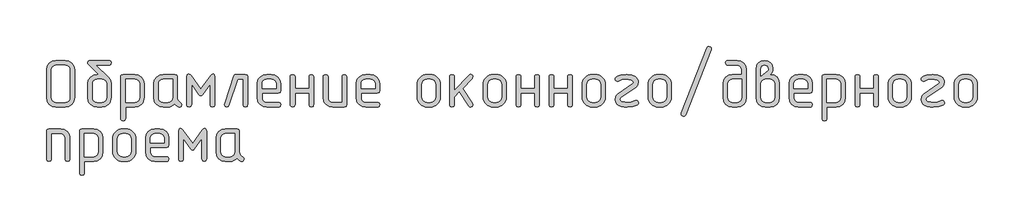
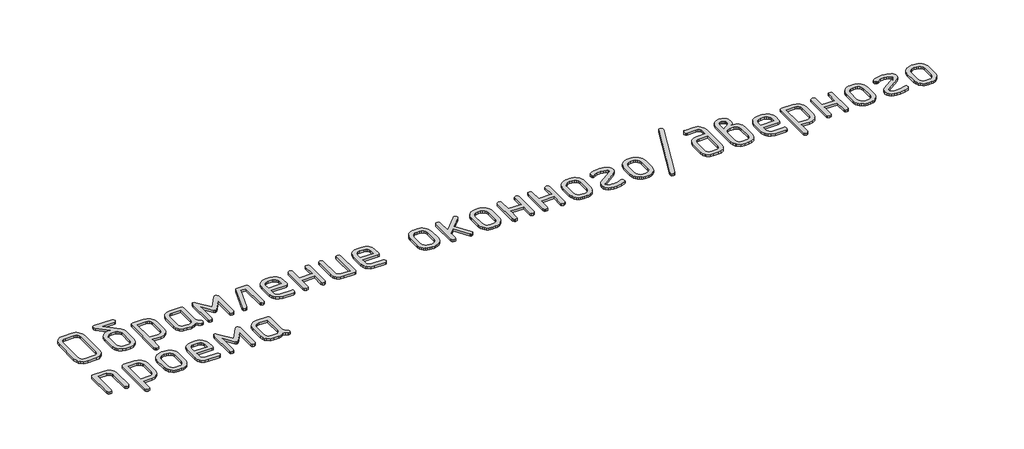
# One storey, part 7 of 37: 1 proxy.
"""IFC4 building model written with IfcOpenShell, lengths in millimetres."""

from ifc_helpers import new_model, si_unit, origin, origin_with_axes, place, context, project, spatial, polyline, outline, extrude, element, save

model = new_model("IFC4")

# Units and contexts
model_context = context("Model", 3, world=origin())
ifc_project = project(units=[si_unit("LENGTHUNIT", "METRE", prefix="MILLI")], contexts=[model_context])

# Site, building, storey
site = spatial("IfcSite", under=ifc_project)
building = spatial("IfcBuilding", under=site)
storey = spatial("IfcBuildingStorey", under=building, Name="Этаж 01", Elevation=0.0)

# Proxy
placement = place(None, origin())
element("IfcBuildingElementProxy", 1, Name="400 мм ГОСТ 2.304", ObjectType="400 мм ГОСТ 2.304", at=placement, inside=storey, context=model_context, shape_type="SweptSolid", body=[
    extrude(outline(polyline([(35529.9614469, -37429.4392879), (35524.0713089, -37460.9629021), (35516.7086364, -37474.7339437), (35506.4008948, -37487.1778083), (35480.7926982, -37504.3931902), (35449.8757935, -37510.1316508), (35369.1834306, -37510.1316508), (35338.1148485, -37504.3931902), (35312.0516197, -37487.1778083), (35301.7438782, -37474.7339437), (35294.3812057, -37460.9629021), (35288.4910677, -37429.4392879), (35288.4910677, -37187.9689087), (35294.3812057, -37156.9003266), (35312.0516197, -37130.8370978), (35338.1148485, -37113.1666838), (35369.1834306, -37107.2765458), (35449.8757935, -37107.2765458), (35480.7926982, -37113.1666838), (35494.260385, -37120.5293563), (35506.4008948, -37130.8370978), (35524.0713089, -37156.9003266), (35529.9614469, -37187.9689087), (35529.9614469, -37429.4392879)]), holes=[polyline([(35489.9186202, -37429.4392879), (35489.9186202, -37187.9689087), (35486.9735512, -37172.2829403), (35478.1383442, -37159.4030033), (35465.1825685, -37150.7953123), (35449.8757935, -37147.926082), (35369.1834306, -37147.926082), (35353.4974622, -37150.7953123), (35340.6175252, -37159.4030033), (35332.0098342, -37172.2829403), (35329.1406039, -37187.9689087), (35329.1406039, -37429.4392879), (35332.0098342, -37445.201095), (35340.6175252, -37458.3085481), (35353.4974622, -37467.1437551), (35369.1834306, -37470.0888241), (35449.8757935, -37470.0888241), (35465.1825685, -37467.1437551), (35478.1383442, -37458.3085481), (35486.9735512, -37445.201095), (35489.9186202, -37429.4392879)])]), origin_with_axes(), (0.0, 0.0, 1.0), 20.0),
    extrude(outline(polyline([(35740.9952331, -37228.6184449), (35650.898873, -37142.0612235), (35645.1351328, -37134.4015161), (35643.2138861, -37125.5789489), (35648.5225942, -37112.5852538), (35655.3101567, -37108.6037228), (35665.0554279, -37107.2765458), (35825.8334443, -37107.2765458), (35834.5928126, -37108.7554002), (35840.8495043, -37113.1919633), (35845.8548576, -37127.9046686), (35840.5461495, -37141.7578688), (35834.2136192, -37146.3840287), (35825.8334443, -37147.926082), (35715.1089613, -37147.926082), (35821.687596, -37249.8532772), (35826.4401538, -37256.3248452), (35841.0011817, -37280.593225), (35845.8548576, -37308.7040983), (35845.8548576, -37429.4392879), (35839.9647196, -37460.9629021), (35832.6020471, -37474.7339437), (35822.2943055, -37487.1778083), (35796.5344315, -37504.3931902), (35765.1624947, -37510.1316508), (35725.119668, -37510.1316508), (35694.0510859, -37504.3931902), (35667.9878572, -37487.1778083), (35657.6801156, -37474.7339437), (35650.3174431, -37460.9629021), (35644.4273051, -37429.4392879), (35644.4273051, -37308.7040983), (35650.3174431, -37278.0905483), (35667.9878572, -37252.178997), (35694.0510859, -37234.5085829), (35725.119668, -37228.6184449), (35740.9952331, -37228.6184449)]), holes=[polyline([(35805.8120309, -37429.4392879), (35805.8120309, -37308.7040983), (35802.8669619, -37293.3973233), (35794.0317549, -37280.4415476), (35780.9243018, -37271.6063406), (35765.1624947, -37268.6612716), (35725.119668, -37268.6612716), (35709.4336996, -37271.6063406), (35696.5537626, -37280.4415476), (35687.9460716, -37293.3973233), (35685.0768413, -37308.7040983), (35685.0768413, -37429.4392879), (35687.9460716, -37445.201095), (35696.5537626, -37458.3085481), (35709.4336996, -37467.1437551), (35725.119668, -37470.0888241), (35765.1624947, -37470.0888241), (35780.9243018, -37467.1437551), (35794.0317549, -37458.3085481), (35802.8669619, -37445.201095), (35805.8120309, -37429.4392879)])]), origin_with_axes(), (0.0, 0.0, 1.0), 20.0),
    extrude(outline(polyline([(35969.8258312, -37510.1316508), (35969.8258312, -37610.8454271), (35968.4228155, -37619.6047955), (35964.2137684, -37625.8614871), (35949.8044179, -37630.8668405), (35935.3445082, -37625.5581324), (35930.7183483, -37619.225602), (35929.176295, -37610.8454271), (35929.176295, -37248.6398582), (35930.4655527, -37239.8804899), (35934.3333257, -37233.6237982), (35949.8044179, -37228.6184449), (36049.9114846, -37228.6184449), (36081.2834215, -37234.3569055), (36107.0432955, -37251.5722875), (36124.7137095, -37277.6355162), (36130.6038476, -37308.7040983), (36130.6038476, -37429.4392879), (36124.7137095, -37460.9629021), (36117.351037, -37474.7339437), (36107.0432955, -37487.1778083), (36081.2834215, -37504.3931902), (36049.9114846, -37510.1316508), (35969.8258312, -37510.1316508)]), holes=[polyline([(35969.8258312, -37470.0888241), (36049.9114846, -37470.0888241), (36065.6732918, -37467.1437551), (36078.7807448, -37458.3085481), (36087.6159518, -37445.201095), (36090.5610209, -37429.4392879), (36090.5610209, -37308.7040983), (36087.6159518, -37293.3973233), (36078.7807448, -37280.4415476), (36065.6732918, -37271.6063406), (36049.9114846, -37268.6612716), (35969.8258312, -37268.6612716), (35969.8258312, -37470.0888241)])]), origin_with_axes(), (0.0, 0.0, 1.0), 20.0),
    extrude(outline(polyline([(36394.7247146, -37483.6386695), (36382.7927612, -37494.2813653), (36368.2317333, -37502.7500186), (36351.9011361, -37508.2862428), (36334.6604746, -37510.1316508), (36294.6176479, -37510.1316508), (36263.5490658, -37504.3931902), (36237.485837, -37487.1778083), (36227.1780955, -37474.7339437), (36219.815423, -37460.9629021), (36213.925285, -37429.4392879), (36213.925285, -37308.7040983), (36219.815423, -37278.0905483), (36237.485837, -37252.178997), (36263.5490658, -37234.5085829), (36294.6176479, -37228.6184449), (36395.3314241, -37228.6184449), (36410.3474842, -37233.6237982), (36415.3528375, -37248.6398582), (36415.3528375, -37429.4392879), (36417.2614445, -37442.4709023), (36422.9872653, -37454.4660546), (36431.8224723, -37464.5399602), (36443.0592378, -37471.8078344), (36452.7665897, -37478.9113914), (36456.0023737, -37489.503528), (36450.3903109, -37504.2667924), (36443.9819418, -37509.1204684), (36435.9809603, -37510.7383603), (36427.6892639, -37508.4126406), (36409.1340652, -37497.7699449), (36394.7247146, -37483.6386695)]), holes=[polyline([(36375.3100108, -37429.4392879), (36375.3100108, -37268.6612716), (36294.6176479, -37268.6612716), (36278.9316795, -37271.6063406), (36266.0517425, -37280.4415476), (36257.4440515, -37293.3973233), (36254.5748212, -37308.7040983), (36254.5748212, -37429.4392879), (36257.4440515, -37445.201095), (36266.0517425, -37458.3085481), (36278.9316795, -37467.1437551), (36294.6176479, -37470.0888241), (36334.6604746, -37470.0888241), (36350.4222817, -37467.1437551), (36363.5297347, -37458.3085481), (36372.3649418, -37445.201095), (36375.3100108, -37429.4392879)])]), origin_with_axes(), (0.0, 0.0, 1.0), 20.0),
    extrude(outline(polyline([(36740.1446541, -37490.1102375), (36738.6657998, -37498.4904124), (36734.2292366, -37504.8229428), (36720.1232408, -37510.1316508), (36705.6633311, -37505.1262975), (36701.4922034, -37498.8696058), (36700.1018274, -37490.1102375), (36700.1018274, -37311.029818), (36635.8917392, -37401.2272964), (36627.6253223, -37409.1145198), (36619.4094645, -37411.7435943), (36610.890252, -37409.1145198), (36602.9271899, -37401.2272964), (36539.3238111, -37311.029818), (36539.3238111, -37490.1102375), (36537.7817578, -37498.4904124), (36533.1555979, -37504.8229428), (36519.3023977, -37510.1316508), (36504.2863377, -37505.1262975), (36500.0772906, -37498.8696058), (36498.6742749, -37490.1102375), (36498.6742749, -37248.6398582), (36503.6796282, -37231.2475194), (36509.35489, -37226.6213595), (36516.3699685, -37225.0793062), (36526.7851482, -37228.037015), (36535.7846724, -37236.9101413), (36619.4094645, -37354.6117835), (36703.6409662, -37236.9101413), (36712.7416086, -37228.037015), (36722.4489605, -37225.0793062), (36729.4640391, -37226.6213595), (36735.1393008, -37231.2475194), (36740.1446541, -37248.6398582), (36740.1446541, -37490.1102375)])), origin_with_axes(), (0.0, 0.0, 1.0), 20.0),
    extrude(outline(polyline([(37023.6802251, -37490.1102375), (37022.2772094, -37498.8696058), (37018.0681623, -37505.1262975), (37003.6588117, -37510.1316508), (36989.5022568, -37504.8229428), (36985.103613, -37498.4904124), (36983.6373984, -37490.1102375), (36983.6373984, -37268.6612716), (36937.1230037, -37268.6612716), (36861.6887898, -37496.5818054), (36854.3577167, -37506.5925121), (36843.4875049, -37510.1316508), (36829.0275953, -37504.8229428), (36824.4014353, -37498.6420898), (36822.859382, -37490.716947), (36824.072801, -37483.6386695), (36903.551745, -37242.1682903), (36910.7311407, -37232.0059062), (36922.9664488, -37228.6184449), (37003.6588117, -37228.6184449), (37018.6748718, -37233.6237982), (37023.6802251, -37248.6398582), (37023.6802251, -37490.1102375)])), origin_with_axes(), (0.0, 0.0, 1.0), 20.0),
    extrude(outline(polyline([(37147.6511987, -37389.3964612), (37147.6511987, -37429.4392879), (37150.520429, -37445.201095), (37159.12812, -37458.3085481), (37172.008057, -37467.1437551), (37187.6940254, -37470.0888241), (37288.4078017, -37470.0888241), (37297.16717, -37471.4918398), (37303.4238617, -37475.700887), (37308.429215, -37490.1102375), (37303.1205069, -37503.9634376), (37296.7879766, -37508.5895975), (37288.4078017, -37510.1316508), (37187.6940254, -37510.1316508), (37156.6254433, -37504.3931902), (37130.5622146, -37487.1778083), (37120.254473, -37474.7339437), (37112.8918005, -37460.9629021), (37107.0016625, -37429.4392879), (37107.0016625, -37308.7040983), (37112.8918005, -37277.7871936), (37120.254473, -37264.3195068), (37130.5622146, -37252.178997), (37156.6254433, -37234.5085829), (37187.6940254, -37228.6184449), (37227.7368521, -37228.6184449), (37259.1087889, -37234.3569055), (37284.868663, -37251.5722875), (37302.539077, -37277.6355162), (37308.429215, -37308.7040983), (37308.429215, -37369.3750479), (37303.4238617, -37384.3911079), (37288.4078017, -37389.3964612), (37147.6511987, -37389.3964612)]), holes=[polyline([(37147.6511987, -37349.3536345), (37268.3863883, -37349.3536345), (37268.3863883, -37308.7040983), (37265.4413193, -37293.3973233), (37256.6061123, -37280.4415476), (37243.4986592, -37271.6063406), (37227.7368521, -37268.6612716), (37187.6940254, -37268.6612716), (37172.008057, -37271.6063406), (37159.12812, -37280.4415476), (37150.520429, -37293.3973233), (37147.6511987, -37308.7040983), (37147.6511987, -37349.3536345)])]), origin_with_axes(), (0.0, 0.0, 1.0), 20.0),
    extrude(outline(polyline([(37553.1353783, -37349.3536345), (37553.1353783, -37248.6398582), (37554.6015929, -37240.2596833), (37559.0002367, -37233.927153), (37573.1567916, -37228.6184449), (37587.2627874, -37233.6237982), (37591.6993506, -37239.8804899), (37593.178205, -37248.6398582), (37593.178205, -37490.1102375), (37591.7751893, -37498.8696058), (37587.5661421, -37505.1262975), (37573.1567916, -37510.1316508), (37559.0002367, -37504.8229428), (37554.6015929, -37498.4904124), (37553.1353783, -37490.1102375), (37553.1353783, -37389.3964612), (37432.4001886, -37389.3964612), (37432.4001886, -37490.1102375), (37430.9971729, -37498.8696058), (37426.7881258, -37505.1262975), (37412.3787753, -37510.1316508), (37397.9188656, -37504.8229428), (37393.2927057, -37498.4904124), (37391.7506524, -37490.1102375), (37391.7506524, -37248.6398582), (37393.2295068, -37240.2596833), (37397.66607, -37233.927153), (37412.3787753, -37228.6184449), (37426.2319754, -37233.6237982), (37430.8581353, -37239.8804899), (37432.4001886, -37248.6398582), (37432.4001886, -37349.3536345), (37553.1353783, -37349.3536345)])), origin_with_axes(), (0.0, 0.0, 1.0), 20.0),
    extrude(outline(polyline([(37877.9271949, -37490.1102375), (37872.9218416, -37505.1262975), (37857.9057815, -37510.1316508), (37757.1920053, -37510.1316508), (37726.1234232, -37504.3931902), (37700.0601944, -37487.1778083), (37689.7524529, -37474.7339437), (37682.3897804, -37460.9629021), (37676.4996424, -37429.4392879), (37676.4996424, -37248.6398582), (37677.9784968, -37240.2596833), (37682.4150599, -37233.927153), (37697.1277652, -37228.6184449), (37710.9809654, -37233.6237982), (37715.6071253, -37239.8804899), (37717.1491786, -37248.6398582), (37717.1491786, -37429.4392879), (37720.0184089, -37445.201095), (37728.6260999, -37458.3085481), (37741.5060369, -37467.1437551), (37757.1920053, -37470.0888241), (37837.8843682, -37470.0888241), (37837.8843682, -37248.6398582), (37839.3505828, -37240.2596833), (37843.7492267, -37233.927153), (37857.9057815, -37228.6184449), (37872.0117773, -37233.6237982), (37876.4483405, -37239.8804899), (37877.9271949, -37248.6398582), (37877.9271949, -37490.1102375)])), origin_with_axes(), (0.0, 0.0, 1.0), 20.0),
    extrude(outline(polyline([(38001.8981685, -37389.3964612), (38001.8981685, -37429.4392879), (38004.7673988, -37445.201095), (38013.3750898, -37458.3085481), (38026.2550268, -37467.1437551), (38041.9409952, -37470.0888241), (38142.6547715, -37470.0888241), (38151.4141398, -37471.4918398), (38157.6708315, -37475.700887), (38162.6761848, -37490.1102375), (38157.3674768, -37503.9634376), (38151.0349464, -37508.5895975), (38142.6547715, -37510.1316508), (38041.9409952, -37510.1316508), (38010.8724131, -37504.3931902), (37984.8091844, -37487.1778083), (37974.5014428, -37474.7339437), (37967.1387703, -37460.9629021), (37961.2486323, -37429.4392879), (37961.2486323, -37308.7040983), (37967.1387703, -37277.7871936), (37974.5014428, -37264.3195068), (37984.8091844, -37252.178997), (38010.8724131, -37234.5085829), (38041.9409952, -37228.6184449), (38081.9838219, -37228.6184449), (38113.3557588, -37234.3569055), (38139.1156328, -37251.5722875), (38156.7860468, -37277.6355162), (38162.6761848, -37308.7040983), (38162.6761848, -37369.3750479), (38157.6708315, -37384.3911079), (38142.6547715, -37389.3964612), (38001.8981685, -37389.3964612)]), holes=[polyline([(38001.8981685, -37349.3536345), (38122.6333581, -37349.3536345), (38122.6333581, -37308.7040983), (38119.6882891, -37293.3973233), (38110.8530821, -37280.4415476), (38097.745629, -37271.6063406), (38081.9838219, -37268.6612716), (38041.9409952, -37268.6612716), (38026.2550268, -37271.6063406), (38013.3750898, -37280.4415476), (38004.7673988, -37293.3973233), (38001.8981685, -37308.7040983), (38001.8981685, -37349.3536345)])]), origin_with_axes(), (0.0, 0.0, 1.0), 20.0),
    extrude(outline(polyline([(38686.873189, -37421.754301), (38685.2552971, -37439.6143118), (38680.4016211, -37456.0839466), (38672.3121612, -37471.1632055), (38660.9869172, -37484.8520885), (38647.5634696, -37495.911897), (38632.6738074, -37503.8117603), (38616.3179306, -37508.5516782), (38598.4958392, -37510.1316508), (38574.3285776, -37510.1316508), (38556.5128061, -37508.5516782), (38540.0747707, -37503.8117603), (38525.0144714, -37495.911897), (38511.3319083, -37484.8520885), (38500.0066644, -37471.1632055), (38491.9172045, -37456.0839466), (38487.0635285, -37439.6143118), (38485.4456365, -37421.754301), (38485.4456365, -37316.9957947), (38487.0635285, -37299.4012194), (38491.9172045, -37283.1211812), (38500.0066644, -37268.1556803), (38511.3319083, -37254.5047167), (38525.4315842, -37243.1794728), (38540.630921, -37235.0900128), (38556.9299188, -37230.2363369), (38574.3285776, -37228.6184449), (38598.4958392, -37228.6184449), (38616.0872546, -37230.2394968), (38632.3578129, -37235.1026526), (38647.3075141, -37243.2079123), (38660.9363581, -37254.5552758), (38672.2837216, -37268.1841199), (38680.3889813, -37283.133821), (38685.2521371, -37299.4043793), (38686.873189, -37316.9957947), (38686.873189, -37421.754301)]), holes=[polyline([(38646.8303623, -37421.754301), (38646.8303623, -37316.9957947), (38643.2912236, -37298.440596), (38632.6738074, -37282.8178265), (38617.0510379, -37272.2004103), (38598.4958392, -37268.6612716), (38574.3285776, -37268.6612716), (38555.7860187, -37272.2004103), (38540.2011685, -37282.8178265), (38529.6216717, -37298.440596), (38526.0951727, -37316.9957947), (38526.0951727, -37421.754301), (38529.6216717, -37440.3094997), (38540.2011685, -37455.9322692), (38555.7860187, -37466.5496854), (38574.3285776, -37470.0888241), (38598.4958392, -37470.0888241), (38617.0510379, -37466.5496854), (38632.6738074, -37455.9322692), (38643.2912236, -37440.3094997), (38646.8303623, -37421.754301)])]), origin_with_axes(), (0.0, 0.0, 1.0), 20.0),
    extrude(outline(polyline([(38851.4936989, -37378.1723356), (38806.6983144, -37425.2934397), (38806.6983144, -37490.1102375), (38805.2952987, -37498.8696058), (38801.0862516, -37505.1262975), (38786.6769011, -37510.1316508), (38772.5709053, -37504.8229428), (38768.1343421, -37498.4904124), (38766.6554877, -37490.1102375), (38766.6554877, -37248.6398582), (38768.0585034, -37240.2596833), (38772.2675506, -37233.927153), (38786.6769011, -37228.6184449), (38800.5301012, -37233.6237982), (38805.1562611, -37239.8804899), (38806.6983144, -37248.6398582), (38806.6983144, -37367.0493281), (38934.5117815, -37233.3710026), (38940.2249626, -37228.5173266), (38946.8482079, -37226.8994346), (38954.6090335, -37228.5173266), (38961.3081176, -37233.3710026), (38965.9342775, -37240.4240005), (38967.4763308, -37248.6398582), (38961.0047628, -37264.0098321), (38879.7056904, -37348.746925), (38962.723773, -37477.1671016), (38967.4763308, -37490.716947), (38965.8584388, -37498.7179285), (38961.0047628, -37505.1262975), (38946.8482079, -37510.7383603), (38938.4806728, -37508.8171136), (38932.1860618, -37503.0533734), (38851.4936989, -37378.1723356)])), origin_with_axes(), (0.0, 0.0, 1.0), 20.0),
    extrude(outline(polyline([(39256.3711689, -37421.754301), (39254.7532769, -37439.6143118), (39249.899601, -37456.0839466), (39241.810141, -37471.1632055), (39230.4848971, -37484.8520885), (39217.0614495, -37495.911897), (39202.1717873, -37503.8117603), (39185.8159105, -37508.5516782), (39167.9938191, -37510.1316508), (39143.8265575, -37510.1316508), (39126.0107859, -37508.5516782), (39109.5727505, -37503.8117603), (39094.5124513, -37495.911897), (39080.8298882, -37484.8520885), (39069.5046443, -37471.1632055), (39061.4151843, -37456.0839466), (39056.5615084, -37439.6143118), (39054.9436164, -37421.754301), (39054.9436164, -37316.9957947), (39056.5615084, -37299.4012194), (39061.4151843, -37283.1211812), (39069.5046443, -37268.1556803), (39080.8298882, -37254.5047167), (39094.9295641, -37243.1794728), (39110.1289009, -37235.0900128), (39126.4278987, -37230.2363369), (39143.8265575, -37228.6184449), (39167.9938191, -37228.6184449), (39185.5852345, -37230.2394968), (39201.8557928, -37235.1026526), (39216.8054939, -37243.2079123), (39230.434338, -37254.5552758), (39241.7817015, -37268.1841199), (39249.8869612, -37283.133821), (39254.750117, -37299.4043793), (39256.3711689, -37316.9957947), (39256.3711689, -37421.754301)]), holes=[polyline([(39216.3283422, -37421.754301), (39216.3283422, -37316.9957947), (39212.7892035, -37298.440596), (39202.1717873, -37282.8178265), (39186.5490178, -37272.2004103), (39167.9938191, -37268.6612716), (39143.8265575, -37268.6612716), (39125.2839985, -37272.2004103), (39109.6991484, -37282.8178265), (39099.1196515, -37298.440596), (39095.5931526, -37316.9957947), (39095.5931526, -37421.754301), (39099.1196515, -37440.3094997), (39109.6991484, -37455.9322692), (39125.2839985, -37466.5496854), (39143.8265575, -37470.0888241), (39167.9938191, -37470.0888241), (39186.5490178, -37466.5496854), (39202.1717873, -37455.9322692), (39212.7892035, -37440.3094997), (39216.3283422, -37421.754301)])]), origin_with_axes(), (0.0, 0.0, 1.0), 20.0),
    extrude(outline(polyline([(39501.0773321, -37349.3536345), (39501.0773321, -37248.6398582), (39502.5435468, -37240.2596833), (39506.9421906, -37233.927153), (39521.0987455, -37228.6184449), (39535.2047413, -37233.6237982), (39539.6413045, -37239.8804899), (39541.1201589, -37248.6398582), (39541.1201589, -37490.1102375), (39539.7171431, -37498.8696058), (39535.508096, -37505.1262975), (39521.0987455, -37510.1316508), (39506.9421906, -37504.8229428), (39502.5435468, -37498.4904124), (39501.0773321, -37490.1102375), (39501.0773321, -37389.3964612), (39380.3421425, -37389.3964612), (39380.3421425, -37490.1102375), (39378.9391268, -37498.8696058), (39374.7300797, -37505.1262975), (39360.3207292, -37510.1316508), (39345.8608195, -37504.8229428), (39341.2346596, -37498.4904124), (39339.6926063, -37490.1102375), (39339.6926063, -37248.6398582), (39341.1714607, -37240.2596833), (39345.6080239, -37233.927153), (39360.3207292, -37228.6184449), (39374.1739293, -37233.6237982), (39378.8000892, -37239.8804899), (39380.3421425, -37248.6398582), (39380.3421425, -37349.3536345), (39501.0773321, -37349.3536345)])), origin_with_axes(), (0.0, 0.0, 1.0), 20.0),
    extrude(outline(polyline([(39785.8263221, -37349.3536345), (39785.8263221, -37248.6398582), (39787.2925367, -37240.2596833), (39791.6911805, -37233.927153), (39805.8477354, -37228.6184449), (39819.9537312, -37233.6237982), (39824.3902944, -37239.8804899), (39825.8691488, -37248.6398582), (39825.8691488, -37490.1102375), (39824.4661331, -37498.8696058), (39820.257086, -37505.1262975), (39805.8477354, -37510.1316508), (39791.6911805, -37504.8229428), (39787.2925367, -37498.4904124), (39785.8263221, -37490.1102375), (39785.8263221, -37389.3964612), (39665.0911325, -37389.3964612), (39665.0911325, -37490.1102375), (39663.6881168, -37498.8696058), (39659.4790696, -37505.1262975), (39645.0697191, -37510.1316508), (39630.6098095, -37504.8229428), (39625.9836496, -37498.4904124), (39624.4415963, -37490.1102375), (39624.4415963, -37248.6398582), (39625.9204506, -37240.2596833), (39630.3570138, -37233.927153), (39645.0697191, -37228.6184449), (39658.9229193, -37233.6237982), (39663.5490792, -37239.8804899), (39665.0911325, -37248.6398582), (39665.0911325, -37349.3536345), (39785.8263221, -37349.3536345)])), origin_with_axes(), (0.0, 0.0, 1.0), 20.0),
    extrude(outline(polyline([(40110.6181387, -37421.754301), (40109.0002467, -37439.6143118), (40104.1465708, -37456.0839466), (40096.0571108, -37471.1632055), (40084.7318669, -37484.8520885), (40071.3084193, -37495.911897), (40056.4187571, -37503.8117603), (40040.0628803, -37508.5516782), (40022.2407889, -37510.1316508), (39998.0735273, -37510.1316508), (39980.2577558, -37508.5516782), (39963.8197204, -37503.8117603), (39948.7594211, -37495.911897), (39935.076858, -37484.8520885), (39923.7516141, -37471.1632055), (39915.6621541, -37456.0839466), (39910.8084782, -37439.6143118), (39909.1905862, -37421.754301), (39909.1905862, -37316.9957947), (39910.8084782, -37299.4012194), (39915.6621541, -37283.1211812), (39923.7516141, -37268.1556803), (39935.076858, -37254.5047167), (39949.1765339, -37243.1794728), (39964.3758707, -37235.0900128), (39980.6748685, -37230.2363369), (39998.0735273, -37228.6184449), (40022.2407889, -37228.6184449), (40039.8322043, -37230.2394968), (40056.1027626, -37235.1026526), (40071.0524638, -37243.2079123), (40084.6813078, -37254.5552758), (40096.0286713, -37268.1841199), (40104.133931, -37283.133821), (40108.9970868, -37299.4043793), (40110.6181387, -37316.9957947), (40110.6181387, -37421.754301)]), holes=[polyline([(40070.575312, -37421.754301), (40070.575312, -37316.9957947), (40067.0361733, -37298.440596), (40056.4187571, -37282.8178265), (40040.7959876, -37272.2004103), (40022.2407889, -37268.6612716), (39998.0735273, -37268.6612716), (39979.5309683, -37272.2004103), (39963.9461182, -37282.8178265), (39953.3666213, -37298.440596), (39949.8401224, -37316.9957947), (39949.8401224, -37421.754301), (39953.3666213, -37440.3094997), (39963.9461182, -37455.9322692), (39979.5309683, -37466.5496854), (39998.0735273, -37470.0888241), (40022.2407889, -37470.0888241), (40040.7959876, -37466.5496854), (40056.4187571, -37455.9322692), (40067.0361733, -37440.3094997), (40070.575312, -37421.754301)])]), origin_with_axes(), (0.0, 0.0, 1.0), 20.0),
    extrude(outline(polyline([(40384.7497125, -37491.8292477), (40344.9596814, -37506.0363617), (40299.4059101, -37510.7383603), (40271.3961551, -37509.2721457), (40247.5322482, -37505.3790931), (40225.6401473, -37498.4651328), (40209.5117865, -37484.8015294), (40199.5769185, -37466.4106478), (40196.2652959, -37445.3148531), (40201.5740039, -37419.4285813), (40208.3615664, -37407.8252621), (40218.1068377, -37397.6881577), (40346.425896, -37309.3108078), (40352.9985822, -37296.9743814), (40347.8415515, -37284.2840411), (40332.3704594, -37275.739549), (40311.2620248, -37271.3409052), (40286.9683655, -37269.8746906), (40251.7792147, -37273.5402271), (40226.2974159, -37284.5368367), (40213.9609895, -37289.2893944), (40206.3392014, -37287.7473411), (40199.8549937, -37283.1211812), (40195.4184305, -37276.2704199), (40193.9395761, -37268.0545621), (40196.0125002, -37259.8387043), (40202.2312726, -37252.7857065), (40218.8905041, -37243.3564297), (40240.7573255, -37236.3034318), (40290.5075042, -37230.4385734), (40297.5857816, -37230.4385734), (40336.4657485, -37235.140572), (40367.0540189, -37248.3870626), (40378.5309402, -37257.8036996), (40387.0754322, -37268.9646263), (40392.3841403, -37281.5285688), (40394.1537097, -37295.7609624), (40388.415249, -37319.5995897), (40371.1998671, -37340.5563468), (40242.7796905, -37429.4392879), (40237.5468211, -37436.5175654), (40235.8025313, -37444.8092618), (40240.8078847, -37458.6119028), (40254.0038162, -37466.5496854), (40276.0981537, -37468.9259643), (40299.9115014, -37470.0888241), (40335.5556842, -37467.1563949), (40365.9417181, -37455.9322692), (40375.9524248, -37453.6065495), (40383.9534063, -37455.1486028), (40390.3617753, -37459.7747627), (40395.9738382, -37474.8413818), (40393.1678067, -37484.649852), (40384.7497125, -37491.8292477)])), origin_with_axes(), (0.0, 0.0, 1.0), 20.0),
    extrude(outline(polyline([(40680.1161186, -37421.754301), (40678.4982266, -37439.6143118), (40673.6445507, -37456.0839466), (40665.5550907, -37471.1632055), (40654.2298468, -37484.8520885), (40640.8063992, -37495.911897), (40625.916737, -37503.8117603), (40609.5608602, -37508.5516782), (40591.7387687, -37510.1316508), (40567.5715072, -37510.1316508), (40549.7557356, -37508.5516782), (40533.3177002, -37503.8117603), (40518.257401, -37495.911897), (40504.5748379, -37484.8520885), (40493.249594, -37471.1632055), (40485.160134, -37456.0839466), (40480.3064581, -37439.6143118), (40478.6885661, -37421.754301), (40478.6885661, -37316.9957947), (40480.3064581, -37299.4012194), (40485.160134, -37283.1211812), (40493.249594, -37268.1556803), (40504.5748379, -37254.5047167), (40518.6745138, -37243.1794728), (40533.8738506, -37235.0900128), (40550.1728484, -37230.2363369), (40567.5715072, -37228.6184449), (40591.7387687, -37228.6184449), (40609.3301842, -37230.2394968), (40625.6007425, -37235.1026526), (40640.5504436, -37243.2079123), (40654.1792877, -37254.5552758), (40665.5266512, -37268.1841199), (40673.6319109, -37283.133821), (40678.4950667, -37299.4043793), (40680.1161186, -37316.9957947), (40680.1161186, -37421.754301)]), holes=[polyline([(40640.0732919, -37421.754301), (40640.0732919, -37316.9957947), (40636.5341532, -37298.440596), (40625.916737, -37282.8178265), (40610.2939675, -37272.2004103), (40591.7387687, -37268.6612716), (40567.5715072, -37268.6612716), (40549.0289482, -37272.2004103), (40533.444098, -37282.8178265), (40522.8646012, -37298.440596), (40519.3381023, -37316.9957947), (40519.3381023, -37421.754301), (40522.8646012, -37440.3094997), (40533.444098, -37455.9322692), (40549.0289482, -37466.5496854), (40567.5715072, -37470.0888241), (40591.7387687, -37470.0888241), (40610.2939675, -37466.5496854), (40625.916737, -37455.9322692), (40636.5341532, -37440.3094997), (40640.0732919, -37421.754301)])]), origin_with_axes(), (0.0, 0.0, 1.0), 20.0),
    extrude(outline(polyline([(41024.3226391, -37014.2477564), (40802.8736732, -37577.8808779), (40795.2392454, -37587.284875), (40784.6723883, -37590.8240138), (40769.909124, -37585.2119509), (40765.055448, -37578.8035819), (40763.437556, -37570.8026004), (40764.650975, -37563.1176135), (40986.0999409, -36999.5856103), (40993.7343687, -36990.0804949), (41004.3012258, -36986.5413561), (41019.0644902, -36992.4567737), (41023.9181661, -36998.9409815), (41025.5360581, -37006.5627695), (41024.3226391, -37014.2477564)])), origin_with_axes(), (0.0, 0.0, 1.0), 20.0),
    extrude(outline(polyline([(41287.2300872, -37228.6184449), (41287.2300872, -37187.9689087), (41284.2850182, -37172.2829403), (41275.4498112, -37159.4030033), (41262.3423581, -37150.7953123), (41246.580551, -37147.926082), (41166.4948976, -37147.926082), (41158.1147227, -37146.4598674), (41151.7821923, -37142.0612235), (41146.4734842, -37127.9046686), (41151.4788376, -37113.4953181), (41157.7355292, -37108.8312388), (41166.4948976, -37107.2765458), (41246.580551, -37107.2765458), (41277.9524878, -37113.1666838), (41291.5339327, -37120.5293563), (41303.7123618, -37130.8370978), (41321.3827759, -37156.9003266), (41327.2729139, -37187.9689087), (41327.2729139, -37429.4392879), (41321.3827759, -37460.9629021), (41314.0201034, -37474.7339437), (41303.7123618, -37487.1778083), (41277.9524878, -37504.3931902), (41246.580551, -37510.1316508), (41206.5377243, -37510.1316508), (41175.4691422, -37504.3931902), (41149.4059135, -37487.1778083), (41139.0981719, -37474.7339437), (41131.7354994, -37460.9629021), (41125.8453614, -37429.4392879), (41125.8453614, -37308.7040983), (41131.7354994, -37278.0905483), (41149.4059135, -37252.178997), (41175.4691422, -37234.5085829), (41206.5377243, -37228.6184449), (41287.2300872, -37228.6184449)]), holes=[polyline([(41287.2300872, -37268.6612716), (41206.5377243, -37268.6612716), (41190.8517559, -37271.6063406), (41177.9718189, -37280.4415476), (41169.3641279, -37293.3973233), (41166.4948976, -37308.7040983), (41166.4948976, -37429.4392879), (41169.3641279, -37445.201095), (41177.9718189, -37458.3085481), (41190.8517559, -37467.1437551), (41206.5377243, -37470.0888241), (41246.580551, -37470.0888241), (41262.3423581, -37467.1437551), (41275.4498112, -37458.3085481), (41284.2850182, -37445.201095), (41287.2300872, -37429.4392879), (41287.2300872, -37268.6612716)])]), origin_with_axes(), (0.0, 0.0, 1.0), 20.0),
    extrude(outline(polyline([(41531.3295409, -37229.8318639), (41565.6591866, -37235.5703245), (41579.8283812, -37242.7434003), (41592.0004905, -37252.7857065), (41607.0165505, -37277.0793658), (41612.0219039, -37308.7040983), (41612.0219039, -37429.4392879), (41606.1317658, -37460.9629021), (41598.7690933, -37474.7339437), (41588.4613518, -37487.1778083), (41562.7014778, -37504.3931902), (41531.3295409, -37510.1316508), (41491.2867142, -37510.1316508), (41460.2181321, -37504.3931902), (41434.1549034, -37487.1778083), (41423.8471619, -37474.7339437), (41416.4844893, -37460.9629021), (41410.5943513, -37429.4392879), (41410.5943513, -37180.38504), (41416.332812, -37149.5945331), (41423.5058878, -37136.7398756), (41433.5481939, -37125.5789489), (41456.0722839, -37111.8521465), (41483.6017273, -37107.2765458), (41510.6761385, -37111.8521465), (41533.0485512, -37125.5789489), (41542.8696611, -37136.7019563), (41549.8847397, -37149.4428557), (41555.4968025, -37179.7783305), (41554.0937868, -37196.2985245), (41549.8847397, -37209.4565366), (41542.4399086, -37220.2888291), (41531.3295409, -37229.8318639)]), holes=[polyline([(41571.9790771, -37429.4392879), (41571.9790771, -37308.7040983), (41569.0340081, -37293.3973233), (41560.1988011, -37280.4415476), (41547.091348, -37271.6063406), (41531.3295409, -37268.6612716), (41491.2867142, -37268.6612716), (41475.6007458, -37271.6063406), (41462.7208088, -37280.4415476), (41454.1131178, -37293.3973233), (41451.2438875, -37308.7040983), (41451.2438875, -37429.4392879), (41454.1131178, -37445.201095), (41462.7208088, -37458.3085481), (41475.6007458, -37467.1437551), (41491.2867142, -37470.0888241), (41531.3295409, -37470.0888241), (41547.091348, -37467.1437551), (41560.1988011, -37458.3085481), (41569.0340081, -37445.201095), (41571.9790771, -37429.4392879)]), polyline([(41451.2438875, -37242.1682903), (41460.6478847, -37236.6067866), (41467.7261622, -37231.5508741), (41481.2760076, -37221.8435222), (41491.2867142, -37214.46189), (41507.7689889, -37199.7997438), (41513.5327291, -37190.2440693), (41515.4539758, -37180.38504), (41513.0271378, -37166.7972752), (41505.7466239, -37156.7739288), (41495.2050464, -37150.5930758), (41482.9950178, -37148.5327915), (41470.9366666, -37150.5930758), (41460.6478847, -37156.7739288), (41453.5948868, -37166.7972752), (41451.2438875, -37180.38504), (41451.2438875, -37242.1682903)])]), origin_with_axes(), (0.0, 0.0, 1.0), 20.0),
    extrude(outline(polyline([(41735.9928775, -37389.3964612), (41735.9928775, -37429.4392879), (41738.8621078, -37445.201095), (41747.4697987, -37458.3085481), (41760.3497358, -37467.1437551), (41776.0357042, -37470.0888241), (41876.7494804, -37470.0888241), (41885.5088488, -37471.4918398), (41891.7655405, -37475.700887), (41896.7708938, -37490.1102375), (41891.4621857, -37503.9634376), (41885.1296553, -37508.5895975), (41876.7494804, -37510.1316508), (41776.0357042, -37510.1316508), (41744.9671221, -37504.3931902), (41718.9038933, -37487.1778083), (41708.5961518, -37474.7339437), (41701.2334793, -37460.9629021), (41695.3433413, -37429.4392879), (41695.3433413, -37308.7040983), (41701.2334793, -37277.7871936), (41708.5961518, -37264.3195068), (41718.9038933, -37252.178997), (41744.9671221, -37234.5085829), (41776.0357042, -37228.6184449), (41816.0785309, -37228.6184449), (41847.4504677, -37234.3569055), (41873.2103417, -37251.5722875), (41890.8807558, -37277.6355162), (41896.7708938, -37308.7040983), (41896.7708938, -37369.3750479), (41891.7655405, -37384.3911079), (41876.7494804, -37389.3964612), (41735.9928775, -37389.3964612)]), holes=[polyline([(41735.9928775, -37349.3536345), (41856.7280671, -37349.3536345), (41856.7280671, -37308.7040983), (41853.7829981, -37293.3973233), (41844.947791, -37280.4415476), (41831.840338, -37271.6063406), (41816.0785309, -37268.6612716), (41776.0357042, -37268.6612716), (41760.3497358, -37271.6063406), (41747.4697987, -37280.4415476), (41738.8621078, -37293.3973233), (41735.9928775, -37308.7040983), (41735.9928775, -37349.3536345)])]), origin_with_axes(), (0.0, 0.0, 1.0), 20.0),
    extrude(outline(polyline([(42020.7418674, -37510.1316508), (42020.7418674, -37610.8454271), (42019.3388517, -37619.6047955), (42015.1298046, -37625.8614871), (42000.720454, -37630.8668405), (41986.2605444, -37625.5581324), (41981.6343845, -37619.225602), (41980.0923312, -37610.8454271), (41980.0923312, -37248.6398582), (41981.3815889, -37239.8804899), (41985.2493619, -37233.6237982), (42000.720454, -37228.6184449), (42100.8275208, -37228.6184449), (42132.1994577, -37234.3569055), (42157.9593317, -37251.5722875), (42175.6297457, -37277.6355162), (42181.5198837, -37308.7040983), (42181.5198837, -37429.4392879), (42175.6297457, -37460.9629021), (42168.2670732, -37474.7339437), (42157.9593317, -37487.1778083), (42132.1994577, -37504.3931902), (42100.8275208, -37510.1316508), (42020.7418674, -37510.1316508)]), holes=[polyline([(42020.7418674, -37470.0888241), (42100.8275208, -37470.0888241), (42116.5893279, -37467.1437551), (42129.696781, -37458.3085481), (42138.531988, -37445.201095), (42141.477057, -37429.4392879), (42141.477057, -37308.7040983), (42138.531988, -37293.3973233), (42129.696781, -37280.4415476), (42116.5893279, -37271.6063406), (42100.8275208, -37268.6612716), (42020.7418674, -37268.6612716), (42020.7418674, -37470.0888241)])]), origin_with_axes(), (0.0, 0.0, 1.0), 20.0),
    extrude(outline(polyline([(42426.226047, -37349.3536345), (42426.226047, -37248.6398582), (42427.6922616, -37240.2596833), (42432.0909054, -37233.927153), (42446.2474603, -37228.6184449), (42460.3534561, -37233.6237982), (42464.7900193, -37239.8804899), (42466.2688737, -37248.6398582), (42466.2688737, -37490.1102375), (42464.865858, -37498.8696058), (42460.6568108, -37505.1262975), (42446.2474603, -37510.1316508), (42432.0909054, -37504.8229428), (42427.6922616, -37498.4904124), (42426.226047, -37490.1102375), (42426.226047, -37389.3964612), (42305.4908573, -37389.3964612), (42305.4908573, -37490.1102375), (42304.0878416, -37498.8696058), (42299.8787945, -37505.1262975), (42285.469444, -37510.1316508), (42271.0095343, -37504.8229428), (42266.3833744, -37498.4904124), (42264.8413211, -37490.1102375), (42264.8413211, -37248.6398582), (42266.3201755, -37240.2596833), (42270.7567387, -37233.927153), (42285.469444, -37228.6184449), (42299.3226441, -37233.6237982), (42303.948804, -37239.8804899), (42305.4908573, -37248.6398582), (42305.4908573, -37349.3536345), (42426.226047, -37349.3536345)])), origin_with_axes(), (0.0, 0.0, 1.0), 20.0),
    extrude(outline(polyline([(42751.0178636, -37421.754301), (42749.3999716, -37439.6143118), (42744.5462957, -37456.0839466), (42736.4568357, -37471.1632055), (42725.1315918, -37484.8520885), (42711.7081442, -37495.911897), (42696.818482, -37503.8117603), (42680.4626052, -37508.5516782), (42662.6405137, -37510.1316508), (42638.4732522, -37510.1316508), (42620.6574806, -37508.5516782), (42604.2194452, -37503.8117603), (42589.159146, -37495.911897), (42575.4765829, -37484.8520885), (42564.151339, -37471.1632055), (42556.061879, -37456.0839466), (42551.2082031, -37439.6143118), (42549.5903111, -37421.754301), (42549.5903111, -37316.9957947), (42551.2082031, -37299.4012194), (42556.061879, -37283.1211812), (42564.151339, -37268.1556803), (42575.4765829, -37254.5047167), (42589.5762588, -37243.1794728), (42604.7755956, -37235.0900128), (42621.0745934, -37230.2363369), (42638.4732522, -37228.6184449), (42662.6405137, -37228.6184449), (42680.2319292, -37230.2394968), (42696.5024875, -37235.1026526), (42711.4521886, -37243.2079123), (42725.0810327, -37254.5552758), (42736.4283962, -37268.1841199), (42744.5336559, -37283.133821), (42749.3968117, -37299.4043793), (42751.0178636, -37316.9957947), (42751.0178636, -37421.754301)]), holes=[polyline([(42710.9750369, -37421.754301), (42710.9750369, -37316.9957947), (42707.4358982, -37298.440596), (42696.818482, -37282.8178265), (42681.1957125, -37272.2004103), (42662.6405137, -37268.6612716), (42638.4732522, -37268.6612716), (42619.9306932, -37272.2004103), (42604.345843, -37282.8178265), (42593.7663462, -37298.440596), (42590.2398473, -37316.9957947), (42590.2398473, -37421.754301), (42593.7663462, -37440.3094997), (42604.345843, -37455.9322692), (42619.9306932, -37466.5496854), (42638.4732522, -37470.0888241), (42662.6405137, -37470.0888241), (42681.1957125, -37466.5496854), (42696.818482, -37455.9322692), (42707.4358982, -37440.3094997), (42710.9750369, -37421.754301)])]), origin_with_axes(), (0.0, 0.0, 1.0), 20.0),
    extrude(outline(polyline([(43025.1494374, -37491.8292477), (42985.3594063, -37506.0363617), (42939.805635, -37510.7383603), (42911.7958799, -37509.2721457), (42887.9319731, -37505.3790931), (42866.0398721, -37498.4651328), (42849.9115114, -37484.8015294), (42839.9766434, -37466.4106478), (42836.6650207, -37445.3148531), (42841.9737288, -37419.4285813), (42848.7612913, -37407.8252621), (42858.5065626, -37397.6881577), (42986.8256209, -37309.3108078), (42993.3983071, -37296.9743814), (42988.2412764, -37284.2840411), (42972.7701842, -37275.739549), (42951.6617497, -37271.3409052), (42927.3680903, -37269.8746906), (42892.1789396, -37273.5402271), (42866.6971408, -37284.5368367), (42854.3607144, -37289.2893944), (42846.7389263, -37287.7473411), (42840.2547186, -37283.1211812), (42835.8181554, -37276.2704199), (42834.339301, -37268.0545621), (42836.4122251, -37259.8387043), (42842.6309974, -37252.7857065), (42859.290229, -37243.3564297), (42881.1570504, -37236.3034318), (42930.9072291, -37230.4385734), (42937.9855065, -37230.4385734), (42976.8654733, -37235.140572), (43007.4537437, -37248.3870626), (43018.930665, -37257.8036996), (43027.4751571, -37268.9646263), (43032.7838652, -37281.5285688), (43034.5534346, -37295.7609624), (43028.8149739, -37319.5995897), (43011.599592, -37340.5563468), (42883.1794154, -37429.4392879), (42877.946546, -37436.5175654), (42876.2022562, -37444.8092618), (42881.2076095, -37458.6119028), (42894.4035411, -37466.5496854), (42916.4978785, -37468.9259643), (42940.3112262, -37470.0888241), (42975.9554091, -37467.1563949), (43006.341443, -37455.9322692), (43016.3521497, -37453.6065495), (43024.3531312, -37455.1486028), (43030.7615002, -37459.7747627), (43036.373563, -37474.8413818), (43033.5675316, -37484.649852), (43025.1494374, -37491.8292477)])), origin_with_axes(), (0.0, 0.0, 1.0), 20.0),
    extrude(outline(polyline([(43320.5158435, -37421.754301), (43318.8979515, -37439.6143118), (43314.0442755, -37456.0839466), (43305.9548156, -37471.1632055), (43294.6295717, -37484.8520885), (43281.2061241, -37495.911897), (43266.3164619, -37503.8117603), (43249.9605851, -37508.5516782), (43232.1384936, -37510.1316508), (43207.971232, -37510.1316508), (43190.1554605, -37508.5516782), (43173.7174251, -37503.8117603), (43158.6571259, -37495.911897), (43144.9745628, -37484.8520885), (43133.6493188, -37471.1632055), (43125.5598589, -37456.0839466), (43120.7061829, -37439.6143118), (43119.0882909, -37421.754301), (43119.0882909, -37316.9957947), (43120.7061829, -37299.4012194), (43125.5598589, -37283.1211812), (43133.6493188, -37268.1556803), (43144.9745628, -37254.5047167), (43159.0742386, -37243.1794728), (43174.2735755, -37235.0900128), (43190.5725733, -37230.2363369), (43207.971232, -37228.6184449), (43232.1384936, -37228.6184449), (43249.729909, -37230.2394968), (43266.0004673, -37235.1026526), (43280.9501685, -37243.2079123), (43294.5790125, -37254.5552758), (43305.9263761, -37268.1841199), (43314.0316357, -37283.133821), (43318.8947915, -37299.4043793), (43320.5158435, -37316.9957947), (43320.5158435, -37421.754301)]), holes=[polyline([(43280.4730168, -37421.754301), (43280.4730168, -37316.9957947), (43276.933878, -37298.440596), (43266.3164619, -37282.8178265), (43250.6936924, -37272.2004103), (43232.1384936, -37268.6612716), (43207.971232, -37268.6612716), (43189.4286731, -37272.2004103), (43173.8438229, -37282.8178265), (43163.2643261, -37298.440596), (43159.7378271, -37316.9957947), (43159.7378271, -37421.754301), (43163.2643261, -37440.3094997), (43173.8438229, -37455.9322692), (43189.4286731, -37466.5496854), (43207.971232, -37470.0888241), (43232.1384936, -37470.0888241), (43250.6936924, -37466.5496854), (43266.3164619, -37455.9322692), (43276.933878, -37440.3094997), (43280.4730168, -37421.754301)])]), origin_with_axes(), (0.0, 0.0, 1.0), 20.0),
    extrude(outline(polyline([(35489.9186202, -37960.5926607), (35488.5156045, -37969.3520291), (35484.3065574, -37975.6087208), (35469.8972068, -37980.6140741), (35455.740652, -37975.305366), (35451.3420081, -37968.9728356), (35449.8757935, -37960.5926607), (35449.8757935, -37779.1865216), (35446.9307245, -37763.8797466), (35438.0955175, -37750.9239709), (35424.9880644, -37742.0887639), (35409.2262573, -37739.1436948), (35329.1406039, -37739.1436948), (35329.1406039, -37960.5926607), (35327.7375882, -37969.3520291), (35323.528541, -37975.6087208), (35309.1191905, -37980.6140741), (35294.6592809, -37975.305366), (35290.033121, -37968.9728356), (35288.4910677, -37960.5926607), (35288.4910677, -37719.1222815), (35289.7803253, -37710.3629131), (35293.6480984, -37704.1062215), (35309.1191905, -37699.1008681), (35409.2262573, -37699.1008681), (35439.8398073, -37704.9910062), (35465.7513586, -37722.6614202), (35476.3245356, -37734.80193), (35483.8768048, -37748.2696168), (35488.4081664, -37763.0644807), (35489.9186202, -37779.1865216), (35489.9186202, -37960.5926607)])), origin_with_axes(), (0.0, 0.0, 1.0), 20.0),
    extrude(outline(polyline([(35613.8895938, -37980.6140741), (35613.8895938, -38081.3278504), (35612.4865781, -38090.0872187), (35608.277531, -38096.3439104), (35593.8681804, -38101.3492637), (35579.4082708, -38096.0405556), (35574.7821109, -38089.7080253), (35573.2400576, -38081.3278504), (35573.2400576, -37719.1222815), (35574.5293153, -37710.3629131), (35578.3970883, -37704.1062215), (35593.8681804, -37699.1008681), (35693.9752472, -37699.1008681), (35725.3471841, -37704.8393288), (35751.1070581, -37722.0547107), (35768.7774721, -37748.1179395), (35774.6676101, -37779.1865216), (35774.6676101, -37899.9217112), (35768.7774721, -37931.4453254), (35761.4147996, -37945.216367), (35751.1070581, -37957.6602315), (35725.3471841, -37974.8756135), (35693.9752472, -37980.6140741), (35613.8895938, -37980.6140741)]), holes=[polyline([(35613.8895938, -37940.5712474), (35693.9752472, -37940.5712474), (35709.7370543, -37937.6261784), (35722.8445074, -37928.7909713), (35731.6797144, -37915.6835183), (35734.6247834, -37899.9217112), (35734.6247834, -37779.1865216), (35731.6797144, -37763.8797466), (35722.8445074, -37750.9239709), (35709.7370543, -37742.0887639), (35693.9752472, -37739.1436948), (35613.8895938, -37739.1436948), (35613.8895938, -37940.5712474)])]), origin_with_axes(), (0.0, 0.0, 1.0), 20.0),
    extrude(outline(polyline([(36059.4166001, -37892.2367242), (36057.7987081, -37910.096735), (36052.9450321, -37926.5663699), (36044.8555722, -37941.6456288), (36033.5303283, -37955.3345118), (36020.1068807, -37966.3943203), (36005.2172185, -37974.2941835), (35988.8613417, -37979.0341015), (35971.0392502, -37980.6140741), (35946.8719886, -37980.6140741), (35929.0562171, -37979.0341015), (35912.6181817, -37974.2941835), (35897.5578825, -37966.3943203), (35883.8753193, -37955.3345118), (35872.5500754, -37941.6456288), (35864.4606155, -37926.5663699), (35859.6069395, -37910.096735), (35857.9890475, -37892.2367242), (35857.9890475, -37787.478218), (35859.6069395, -37769.8836426), (35864.4606155, -37753.6036045), (35872.5500754, -37738.6381036), (35883.8753193, -37724.9871399), (35897.9749952, -37713.661896), (35913.1743321, -37705.5724361), (35929.4733299, -37700.7187601), (35946.8719886, -37699.1008681), (35971.0392502, -37699.1008681), (35988.6306656, -37700.7219201), (36004.9012239, -37705.5850759), (36019.8509251, -37713.6903355), (36033.4797691, -37725.0376991), (36044.8271327, -37738.6665431), (36052.9323923, -37753.6162443), (36057.7955481, -37769.8868026), (36059.4166001, -37787.478218), (36059.4166001, -37892.2367242)]), holes=[polyline([(36019.3737734, -37892.2367242), (36019.3737734, -37787.478218), (36015.8346346, -37768.9230193), (36005.2172185, -37753.3002497), (35989.594449, -37742.6828336), (35971.0392502, -37739.1436948), (35946.8719886, -37739.1436948), (35928.3294297, -37742.6828336), (35912.7445795, -37753.3002497), (35902.1650827, -37768.9230193), (35898.6385837, -37787.478218), (35898.6385837, -37892.2367242), (35902.1650827, -37910.791923), (35912.7445795, -37926.4146925), (35928.3294297, -37937.0321087), (35946.8719886, -37940.5712474), (35971.0392502, -37940.5712474), (35989.594449, -37937.0321087), (36005.2172185, -37926.4146925), (36015.8346346, -37910.791923), (36019.3737734, -37892.2367242)])]), origin_with_axes(), (0.0, 0.0, 1.0), 20.0),
    extrude(outline(polyline([(36183.3875737, -37859.8788845), (36183.3875737, -37899.9217112), (36186.256804, -37915.6835183), (36194.864495, -37928.7909713), (36207.744432, -37937.6261784), (36223.4304004, -37940.5712474), (36324.1441767, -37940.5712474), (36332.903545, -37941.9742631), (36339.1602367, -37946.1833102), (36344.16559, -37960.5926607), (36338.8568819, -37974.4458609), (36332.5243516, -37979.0720208), (36324.1441767, -37980.6140741), (36223.4304004, -37980.6140741), (36192.3618183, -37974.8756135), (36166.2985896, -37957.6602315), (36155.990848, -37945.216367), (36148.6281755, -37931.4453254), (36142.7380375, -37899.9217112), (36142.7380375, -37779.1865216), (36148.6281755, -37748.2696168), (36155.990848, -37734.80193), (36166.2985896, -37722.6614202), (36192.3618183, -37704.9910062), (36223.4304004, -37699.1008681), (36263.4732271, -37699.1008681), (36294.8451639, -37704.8393288), (36320.6050379, -37722.0547107), (36338.275452, -37748.1179395), (36344.16559, -37779.1865216), (36344.16559, -37839.8574711), (36339.1602367, -37854.8735311), (36324.1441767, -37859.8788845), (36183.3875737, -37859.8788845)]), holes=[polyline([(36183.3875737, -37819.8360578), (36304.1227633, -37819.8360578), (36304.1227633, -37779.1865216), (36301.1776943, -37763.8797466), (36292.3424873, -37750.9239709), (36279.2350342, -37742.0887639), (36263.4732271, -37739.1436948), (36223.4304004, -37739.1436948), (36207.744432, -37742.0887639), (36194.864495, -37750.9239709), (36186.256804, -37763.8797466), (36183.3875737, -37779.1865216), (36183.3875737, -37819.8360578)])]), origin_with_axes(), (0.0, 0.0, 1.0), 20.0),
    extrude(outline(polyline([(36668.9574067, -37960.5926607), (36667.4785523, -37968.9728356), (36663.0419891, -37975.305366), (36648.9359933, -37980.6140741), (36634.4760837, -37975.6087208), (36630.3049559, -37969.3520291), (36628.91458, -37960.5926607), (36628.91458, -37781.5122413), (36564.7044917, -37871.7097196), (36556.4380748, -37879.5969431), (36548.222217, -37882.2260176), (36539.7030045, -37879.5969431), (36531.7399424, -37871.7097196), (36468.1365636, -37781.5122413), (36468.1365636, -37960.5926607), (36466.5945103, -37968.9728356), (36461.9683504, -37975.305366), (36448.1151503, -37980.6140741), (36433.0990902, -37975.6087208), (36428.8900431, -37969.3520291), (36427.4870274, -37960.5926607), (36427.4870274, -37719.1222815), (36432.4923807, -37701.7299426), (36438.1676425, -37697.1037827), (36445.182721, -37695.5617294), (36455.5979007, -37698.5194382), (36464.5974249, -37707.3925646), (36548.222217, -37825.0942067), (36632.4537187, -37707.3925646), (36641.5543611, -37698.5194382), (36651.261713, -37695.5617294), (36658.2767916, -37697.1037827), (36663.9520533, -37701.7299426), (36668.9574067, -37719.1222815), (36668.9574067, -37960.5926607)])), origin_with_axes(), (0.0, 0.0, 1.0), 20.0),
    extrude(outline(polyline([(36931.8648548, -37954.1210928), (36919.9329013, -37964.7637885), (36905.3718734, -37973.2324419), (36889.0412762, -37978.768666), (36871.8006147, -37980.6140741), (36831.757788, -37980.6140741), (36800.6892059, -37974.8756135), (36774.6259771, -37957.6602315), (36764.3182356, -37945.216367), (36756.9555631, -37931.4453254), (36751.0654251, -37899.9217112), (36751.0654251, -37779.1865216), (36756.9555631, -37748.5729716), (36774.6259771, -37722.6614202), (36800.6892059, -37704.9910062), (36831.757788, -37699.1008681), (36932.4715643, -37699.1008681), (36947.4876243, -37704.1062215), (36952.4929776, -37719.1222815), (36952.4929776, -37899.9217112), (36954.4015846, -37912.9533256), (36960.1274054, -37924.9484779), (36968.9626125, -37935.0223835), (36980.1993779, -37942.2902576), (36989.9067298, -37949.3938146), (36993.1425138, -37959.9859512), (36987.530451, -37974.7492156), (36981.1220819, -37979.6028916), (36973.1211005, -37981.2207836), (36964.829404, -37978.8950639), (36946.2742053, -37968.2523681), (36931.8648548, -37954.1210928)]), holes=[polyline([(36912.4501509, -37899.9217112), (36912.4501509, -37739.1436948), (36831.757788, -37739.1436948), (36816.0718196, -37742.0887639), (36803.1918826, -37750.9239709), (36794.5841916, -37763.8797466), (36791.7149613, -37779.1865216), (36791.7149613, -37899.9217112), (36794.5841916, -37915.6835183), (36803.1918826, -37928.7909713), (36816.0718196, -37937.6261784), (36831.757788, -37940.5712474), (36871.8006147, -37940.5712474), (36887.5624218, -37937.6261784), (36900.6698749, -37928.7909713), (36909.5050819, -37915.6835183), (36912.4501509, -37899.9217112)])]), origin_with_axes(), (0.0, 0.0, 1.0), 20.0),
])

save(model, "model.ifc")
